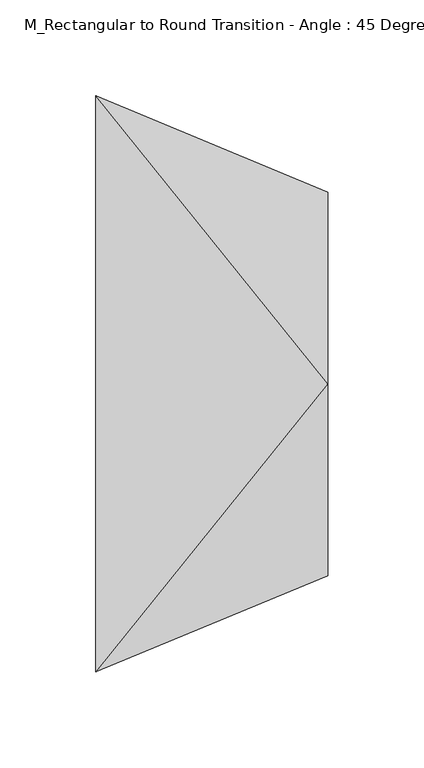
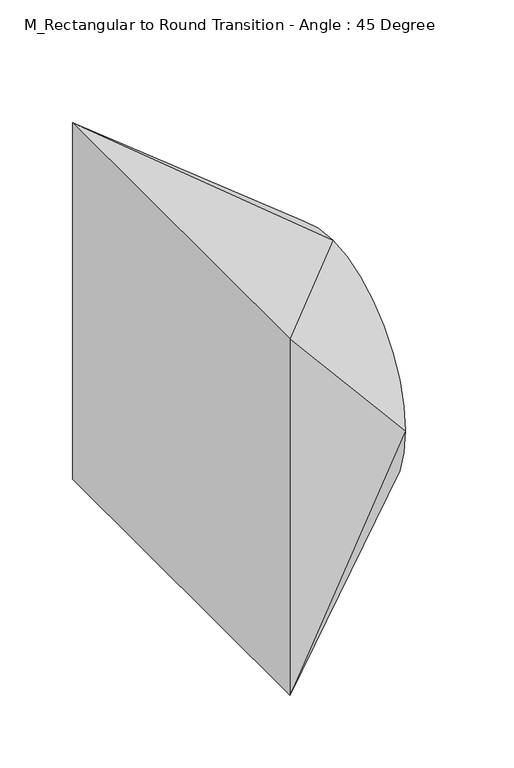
"""IFC4 building model written with IfcOpenShell, lengths in millimetres: duct fitting geometry, M_Rectangular to Round Transition - Angle : 45 Degree."""

from ifc_helpers import new_model, si_unit, frame, origin, place, context, project, spatial, circle_curve, source, transform, mapped, element, save
from ifc_brep_helpers import plane_surface, spline_surface, advanced_brep


def m_rectangular_to_round_transition_angle_45_degree_fe40cbe3(model_context):
    return source(origin(), model_context, "Body", "AdvancedBrep", [
        advanced_brep(
        [(0.0, 150.0, -150.0), (0.0, -150.0, -150.0), (0.0, -150.0, 150.0), (0.0, 150.0, 150.0), (120.7106781, 100.0, 0.0), (120.7106781, 0.0, 100.0), (120.7106781, -100.0, 0.0), (120.7106781, 0.0, -100.0)],
        [
            (0, 1),
            (1, 2),
            (2, 3),
            (3, 0),
            (4, 5, circle_curve(frame((120.7106781, 0.0, 0.0), z_axis=(1.0, 0.0, 0.0), x_axis=(0.0, 1.0, 0.0)), 100.0)),
            (5, 6, circle_curve(frame((120.7106781, 0.0, 0.0), z_axis=(1.0, 0.0, 0.0), x_axis=(0.0, 1.0, 0.0)), 100.0)),
            (6, 7, circle_curve(frame((120.7106781, 0.0, 0.0), z_axis=(1.0, 0.0, 0.0), x_axis=(0.0, 1.0, 0.0)), 100.0)),
            (7, 4, circle_curve(frame((120.7106781, 0.0, 0.0), z_axis=(1.0, 0.0, 0.0), x_axis=(0.0, 1.0, 0.0)), 100.0)),
            (3, 4),
            (4, 0),
            (3, 5),
            (2, 5),
            (2, 6),
            (1, 6),
            (1, 7),
            (0, 7),
        ],
        [
            plane_surface(frame((0.0, 0.0, 0.0), z_axis=(-1.0, 0.0, 0.0), x_axis=(0.0, -1.0, 0.0))),
            plane_surface(frame((120.7106781, 0.0, 0.0), z_axis=(1.0, 0.0, 0.0), x_axis=(0.0, -1.0, 0.0))),
            plane_surface(frame((120.7106781, 100.0, 0.0), z_axis=(0.38268343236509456, 0.9238795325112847, 0.0), x_axis=(0.0, 0.0, 1.0))),
            spline_surface(1, 2, [[(120.7106781, 100.0, 0.0), (120.7106781, 100.0, 100.0), (120.7106781, 0.0, 100.0)], [(0.0, 150.0, 150.0), (0.0, 150.0, 150.0), (0.0, 150.0, 150.0)]], [2, 2], [3, 3], [0.0, 1.0], [0.0, 1.0], weights=[[1.0, 0.7071067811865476, 1.0], [1.0, 0.7071067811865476, 1.0]]),
            plane_surface(frame((120.7106781, 0.0, 100.0), z_axis=(0.38268343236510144, 0.0, 0.923879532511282), x_axis=(0.0, -1.0, 0.0))),
            spline_surface(1, 2, [[(120.7106781, 0.0, 100.0), (120.7106781, -100.0, 100.0), (120.7106781, -100.0, 0.0)], [(0.0, -150.0, 150.0), (0.0, -150.0, 150.0), (0.0, -150.0, 150.0)]], [2, 2], [3, 3], [0.0, 1.0], [0.0, 1.0], weights=[[1.0, 0.7071067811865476, 1.0], [1.0, 0.7071067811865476, 1.0]]),
            plane_surface(frame((120.7106781, -100.0, 0.0), z_axis=(0.38268343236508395, -0.9238795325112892, 0.0), x_axis=(0.0, 0.0, -1.0))),
            spline_surface(1, 2, [[(120.7106781, -100.0, 0.0), (120.7106781, -100.0, -100.0), (120.7106781, 0.0, -100.0)], [(0.0, -150.0, -150.0), (0.0, -150.0, -150.0), (0.0, -150.0, -150.0)]], [2, 2], [3, 3], [0.0, 1.0], [0.0, 1.0], weights=[[1.0, 0.7071067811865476, 1.0], [1.0, 0.7071067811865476, 1.0]]),
            plane_surface(frame((120.7106781, 0.0, -100.0), z_axis=(0.382683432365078, 0.0, -0.9238795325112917), x_axis=(0.0, 1.0, 0.0))),
            spline_surface(1, 2, [[(120.7106781, 0.0, -100.0), (120.7106781, 100.0, -100.0), (120.7106781, 100.0, 0.0)], [(0.0, 150.0, -150.0), (0.0, 150.0, -150.0), (0.0, 150.0, -150.0)]], [2, 2], [3, 3], [0.0, 1.0], [0.0, 1.0], weights=[[1.0, 0.7071067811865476, 1.0], [1.0, 0.7071067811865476, 1.0]]),
        ],
        [
            (0, [[1, 2, 3, 4]]),
            (1, [[5, 6, 7, 8]]),
            (2, [[9, 10, -4]]),
            (3, [[-9, 11, -5]]),
            (4, [[12, -11, -3]]),
            (5, [[-12, 13, -6]]),
            (6, [[14, -13, -2]]),
            (7, [[-14, 15, -7]]),
            (8, [[16, -15, -1]]),
            (9, [[-16, -10, -8]]),
        ],
    ),
        advanced_brep(
        [(0.0, 150.0, -150.0), (0.0, -150.0, -150.0), (0.0, -150.0, 150.0), (0.0, 150.0, 150.0), (120.7106781, 100.0, 0.0), (120.7106781, 0.0, 100.0), (120.7106781, -100.0, 0.0), (120.7106781, 0.0, -100.0)],
        [
            (0, 1),
            (1, 2),
            (2, 3),
            (3, 0),
            (4, 5, circle_curve(frame((120.7106781, 0.0, 0.0), z_axis=(1.0, 0.0, 0.0), x_axis=(0.0, 1.0, 0.0)), 100.0)),
            (5, 6, circle_curve(frame((120.7106781, 0.0, 0.0), z_axis=(1.0, 0.0, 0.0), x_axis=(0.0, 1.0, 0.0)), 100.0)),
            (6, 7, circle_curve(frame((120.7106781, 0.0, 0.0), z_axis=(1.0, 0.0, 0.0), x_axis=(0.0, 1.0, 0.0)), 100.0)),
            (7, 4, circle_curve(frame((120.7106781, 0.0, 0.0), z_axis=(1.0, 0.0, 0.0), x_axis=(0.0, 1.0, 0.0)), 100.0)),
            (3, 4),
            (4, 0),
            (3, 5),
            (2, 5),
            (2, 6),
            (1, 6),
            (1, 7),
            (0, 7),
        ],
        [
            plane_surface(frame((0.0, 0.0, 0.0), z_axis=(-1.0, 0.0, 0.0), x_axis=(0.0, -1.0, 0.0))),
            plane_surface(frame((120.7106781, 0.0, 0.0), z_axis=(1.0, 0.0, 0.0), x_axis=(0.0, -1.0, 0.0))),
            plane_surface(frame((120.7106781, 100.0, 0.0), z_axis=(0.3826834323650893, 0.9238795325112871, 0.0), x_axis=(0.0, 0.0, 1.0))),
            spline_surface(1, 2, [[(120.7106781, 100.0, 0.0), (120.7106781, 100.0, 100.0), (120.7106781, 0.0, 100.0)], [(0.0, 150.0, 150.0), (0.0, 150.0, 150.0), (0.0, 150.0, 150.0)]], [2, 2], [3, 3], [0.0, 1.0], [0.0, 1.0], weights=[[1.0, 0.7071067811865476, 1.0], [1.0, 0.7071067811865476, 1.0]]),
            plane_surface(frame((120.7106781, 0.0, 100.0), z_axis=(0.3826834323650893, 0.0, 0.9238795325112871), x_axis=(0.0, -1.0, 0.0))),
            spline_surface(1, 2, [[(120.7106781, 0.0, 100.0), (120.7106781, -100.0, 100.0), (120.7106781, -100.0, 0.0)], [(0.0, -150.0, 150.0), (0.0, -150.0, 150.0), (0.0, -150.0, 150.0)]], [2, 2], [3, 3], [0.0, 1.0], [0.0, 1.0], weights=[[1.0, 0.7071067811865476, 1.0], [1.0, 0.7071067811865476, 1.0]]),
            plane_surface(frame((120.7106781, -100.0, 0.0), z_axis=(0.38268343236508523, -0.9238795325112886, 0.0), x_axis=(0.0, 0.0, -1.0))),
            spline_surface(1, 2, [[(120.7106781, -100.0, 0.0), (120.7106781, -100.0, -100.0), (120.7106781, 0.0, -100.0)], [(0.0, -150.0, -150.0), (0.0, -150.0, -150.0), (0.0, -150.0, -150.0)]], [2, 2], [3, 3], [0.0, 1.0], [0.0, 1.0], weights=[[1.0, 0.7071067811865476, 1.0], [1.0, 0.7071067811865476, 1.0]]),
            plane_surface(frame((120.7106781, 0.0, -100.0), z_axis=(0.3826834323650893, 0.0, -0.9238795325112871), x_axis=(0.0, 1.0, 0.0))),
            spline_surface(1, 2, [[(120.7106781, 0.0, -100.0), (120.7106781, 100.0, -100.0), (120.7106781, 100.0, 0.0)], [(0.0, 150.0, -150.0), (0.0, 150.0, -150.0), (0.0, 150.0, -150.0)]], [2, 2], [3, 3], [0.0, 1.0], [0.0, 1.0], weights=[[1.0, 0.7071067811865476, 1.0], [1.0, 0.7071067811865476, 1.0]]),
        ],
        [
            (0, [[1, 2, 3, 4]]),
            (1, [[5, 6, 7, 8]]),
            (2, [[9, 10, -4]]),
            (3, [[-9, 11, -5]]),
            (4, [[12, -11, -3]]),
            (5, [[-12, 13, -6]]),
            (6, [[14, -13, -2]]),
            (7, [[-14, 15, -7]]),
            (8, [[16, -15, -1]]),
            (9, [[-16, -10, -8]]),
        ],
    ),
        advanced_brep(
        [(120.7106781, 0.0, 100.0), (120.7106781, -100.0, 0.0), (120.7106781, 0.0, -100.0), (120.7106781, 100.0, 0.0), (0.0, 150.0, 150.0), (0.0, 150.0, -150.0), (0.0, -150.0, -150.0), (0.0, -150.0, 150.0)],
        [
            (0, 1, circle_curve(frame((120.7106781, 0.0, 0.0), z_axis=(1.0, 0.0, 0.0), x_axis=(0.0, -1.0, 0.0)), 100.0)),
            (1, 2, circle_curve(frame((120.7106781, 0.0, 0.0), z_axis=(1.0, 0.0, 0.0), x_axis=(0.0, -1.0, 0.0)), 100.0)),
            (2, 3, circle_curve(frame((120.7106781, 0.0, 0.0), z_axis=(1.0, 0.0, 0.0), x_axis=(0.0, -1.0, 0.0)), 100.0)),
            (3, 0, circle_curve(frame((120.7106781, 0.0, 0.0), z_axis=(1.0, 0.0, 0.0), x_axis=(0.0, -1.0, 0.0)), 100.0)),
            (4, 5),
            (5, 6),
            (6, 7),
            (7, 4),
            (3, 4),
            (4, 0),
            (3, 5),
            (2, 5),
            (2, 6),
            (1, 6),
            (1, 7),
            (0, 7),
        ],
        [
            plane_surface(frame((120.7106781, 0.0, 0.0), z_axis=(1.0, 0.0, 0.0), x_axis=(0.0, 0.0, -1.0))),
            plane_surface(frame((0.0, 0.0, 0.0), z_axis=(-1.0, 0.0, 0.0), x_axis=(0.0, 0.0, -1.0))),
            spline_surface(1, 2, [[(0.0, 150.0, 150.0), (0.0, 150.0, 150.0), (0.0, 150.0, 150.0)], [(120.7106781, 0.0, 100.0), (120.7106781, 100.0, 100.0), (120.7106781, 100.0, 0.0)]], [2, 2], [3, 3], [0.0, 1.0], [0.0, 1.0], weights=[[1.0, 0.7071067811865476, 1.0], [1.0, 0.7071067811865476, 1.0]]),
            plane_surface(frame((0.0, 150.0, 0.0), z_axis=(0.3826834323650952, 0.9238795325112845, 0.0), x_axis=(0.0, 0.0, -1.0))),
            spline_surface(1, 2, [[(0.0, 150.0, -150.0), (0.0, 150.0, -150.0), (0.0, 150.0, -150.0)], [(120.7106781, 100.0, 0.0), (120.7106781, 100.0, -100.0), (120.7106781, 0.0, -100.0)]], [2, 2], [3, 3], [0.0, 1.0], [0.0, 1.0], weights=[[1.0, 0.7071067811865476, 1.0], [1.0, 0.7071067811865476, 1.0]]),
            plane_surface(frame((0.0, 0.0, -150.0), z_axis=(0.38268343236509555, 0.0, -0.9238795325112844), x_axis=(0.0, -1.0, 0.0))),
            spline_surface(1, 2, [[(0.0, -150.0, -150.0), (0.0, -150.0, -150.0), (0.0, -150.0, -150.0)], [(120.7106781, 0.0, -100.0), (120.7106781, -100.0, -100.0), (120.7106781, -100.0, 0.0)]], [2, 2], [3, 3], [0.0, 1.0], [0.0, 1.0], weights=[[1.0, 0.7071067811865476, 1.0], [1.0, 0.7071067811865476, 1.0]]),
            plane_surface(frame((0.0, -150.0, 0.0), z_axis=(0.38268343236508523, -0.9238795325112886, 0.0), x_axis=(0.0, 0.0, 1.0))),
            spline_surface(1, 2, [[(0.0, -150.0, 150.0), (0.0, -150.0, 150.0), (0.0, -150.0, 150.0)], [(120.7106781, -100.0, 0.0), (120.7106781, -100.0, 100.0), (120.7106781, 0.0, 100.0)]], [2, 2], [3, 3], [0.0, 1.0], [0.0, 1.0], weights=[[1.0, 0.7071067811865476, 1.0], [1.0, 0.7071067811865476, 1.0]]),
            plane_surface(frame((0.0, 0.0, 150.0), z_axis=(0.3826834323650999, 0.0, 0.9238795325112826), x_axis=(0.0, 1.0, 0.0))),
        ],
        [
            (0, [[1, 2, 3, 4]]),
            (1, [[5, 6, 7, 8]]),
            (2, [[9, 10, -4]]),
            (3, [[-9, 11, -5]]),
            (4, [[12, -11, -3]]),
            (5, [[-12, 13, -6]]),
            (6, [[14, -13, -2]]),
            (7, [[-14, 15, -7]]),
            (8, [[16, -15, -1]]),
            (9, [[-16, -10, -8]]),
        ],
    ),
    ])


if __name__ == "__main__":
    model = new_model("IFC4")
    model_context = context("Model", 3, world=origin())
    ifc_project = project(units=[si_unit("LENGTHUNIT", "METRE", prefix="MILLI")], contexts=[model_context])
    site = spatial("IfcSite", under=ifc_project)
    building = spatial("IfcBuilding", under=site)
    placement = place(None, origin())
    m_rectangular_to_round_transition_angle_45_degree_shape = m_rectangular_to_round_transition_angle_45_degree_fe40cbe3(model_context)
    element("IfcDuctFitting", 1, ObjectType="M_Rectangular to Round Transition - Angle : 45 Degree", at=placement, inside=building, context=model_context, shape_type="MappedRepresentation", body=[
        mapped(m_rectangular_to_round_transition_angle_45_degree_shape, transform((0.0, 0.0, 0.0), x_axis=(1.0, 0.0, 0.0), y_axis=(0.0, 1.0, 0.0), z_axis=(0.0, 0.0, 1.0))),
    ])
    save(model, "model.ifc")
